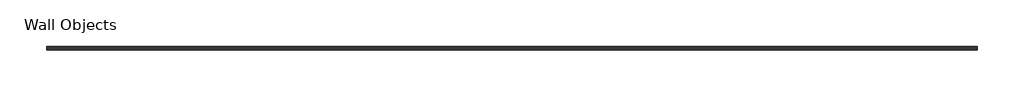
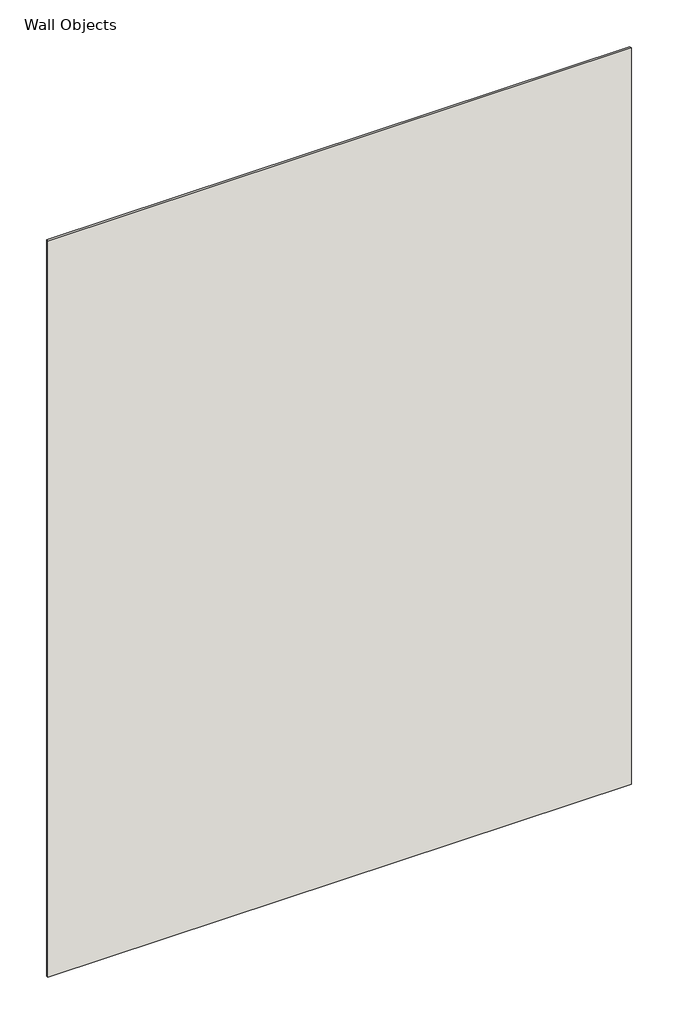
# One storey: 1 wall.
"""IFC4 building model written with IfcOpenShell, lengths in millimetres."""

from ifc_helpers import new_model, si_unit, frame, origin, place, context, project, spatial, polyline, outline, extrude, element, save

model = new_model("IFC4")

# Units and contexts
model_context = context("Model", 3, world=origin())
ifc_project = project(units=[si_unit("LENGTHUNIT", "METRE", prefix="MILLI")], contexts=[model_context])

# Site, building, storey
site = spatial("IfcSite", under=ifc_project)
building = spatial("IfcBuilding", under=site)
storey = spatial("IfcBuildingStorey", under=building, Name="Wall Objects", Elevation=4000.0)

# Wall
placement = place(None, origin())
element("IfcWall", 1, ObjectType="Knauf Danoline Contrapanel 1200x600x12.5_Wall lining_B", at=placement, inside=storey, context=model_context, shape_type="SweptSolid", body=[
    extrude(outline(polyline([(-4783.0103193, 6610.7781757), (-7783.0103193, 6610.7781757), (-7783.0103193, 6623.2781757), (-4783.0103193, 6623.2781757), (-4783.0103193, 6610.7781757)])), frame((0.0, 0.0, 4000.0), z_axis=(0.0, 0.0, 1.0), x_axis=(1.0, 0.0, 0.0)), (0.0, 0.0, 1.0), 4000.0),
])

save(model, "model.ifc")
